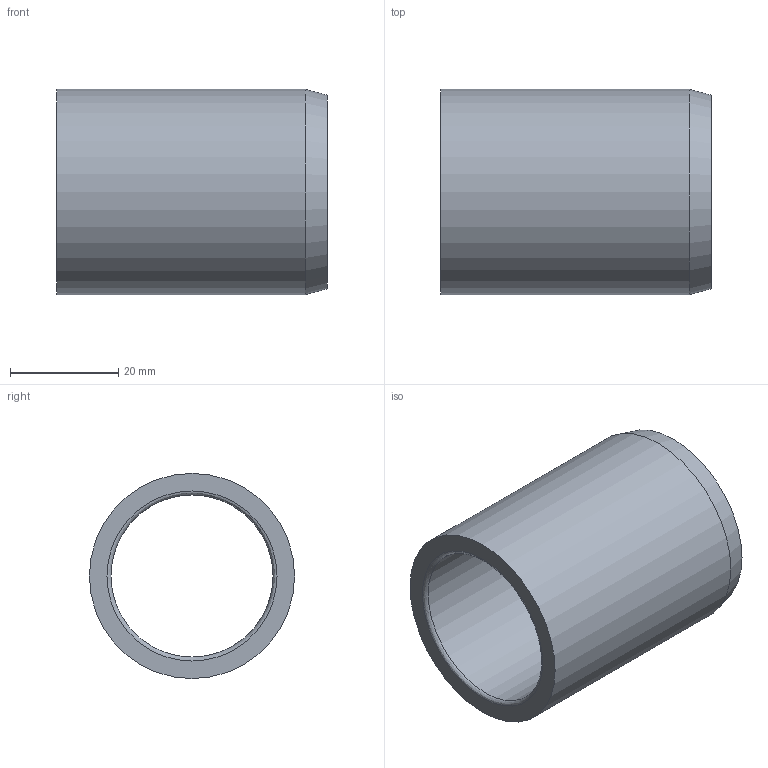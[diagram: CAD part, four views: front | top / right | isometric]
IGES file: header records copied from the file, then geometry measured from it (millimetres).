
Global section: file name: BG04.303850.ipt; native system: Autodesk Inventor 2021; preprocessor: unknown; author: SM; date: 20211217.163330; units: millimetre
Bounding box: 50 x 38 x 38 mm (x, y, z)
Volume: 21088.7 mm3; surface area: 11354.3 mm2
Topology: 1 solids, 1 shells, 7 faces, 18 edges, 13 vertices
Faces by surface type: revolution 3, plane 2, cylinder 1, cone 1
Full cylindrical faces by diameter (mm): 38 x1
